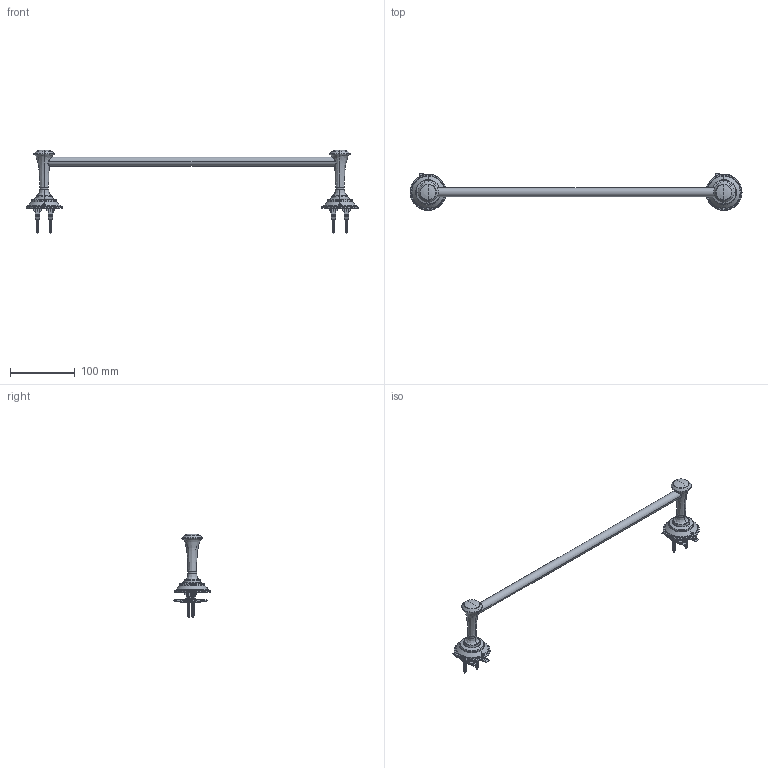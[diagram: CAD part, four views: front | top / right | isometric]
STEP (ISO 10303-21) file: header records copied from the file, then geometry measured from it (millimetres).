
FILE_DESCRIPTION (( 'STEP AP214' ), '1' );
FILE_NAME ('583TB.STEP', '2025-01-06T01:14:04', ( '' ), ( '' ), 'SwSTEP 2.0', 'SolidWorks 2023', '' );
FILE_SCHEMA (( 'AUTOMOTIVE_DESIGN' ));
Products named in the file (1): 583TB
Bounding box: 513.08 x 56.54 x 129.62 mm (x, y, z)
Surface area: 56687.1 mm2 (no closed solid volume)
Topology: 0 solids, 24 shells, 626 faces, 2185 edges, 1512 vertices
Faces by surface type: plane 202, cylinder 197, bspline 116, torus 56, cone 51, sphere 4
Entity records: 74264 total; most frequent: CARTESIAN_POINT 57622, ORIENTED_EDGE 3697, DIRECTION 2738, EDGE_CURVE 2177, VERTEX_POINT 1510, AXIS2_PLACEMENT_3D 990, B_SPLINE_CURVE_WITH_KNOTS 936, VECTOR 758
